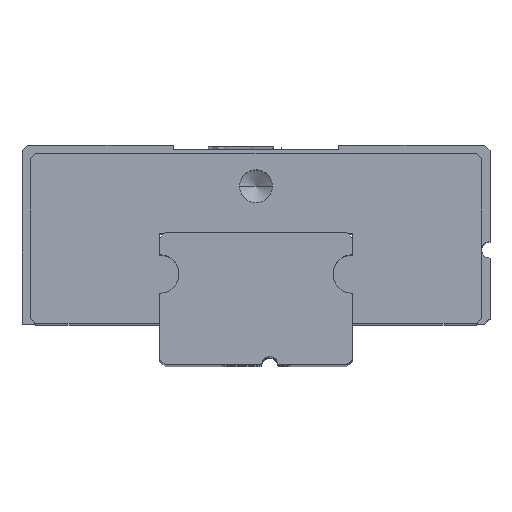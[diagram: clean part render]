
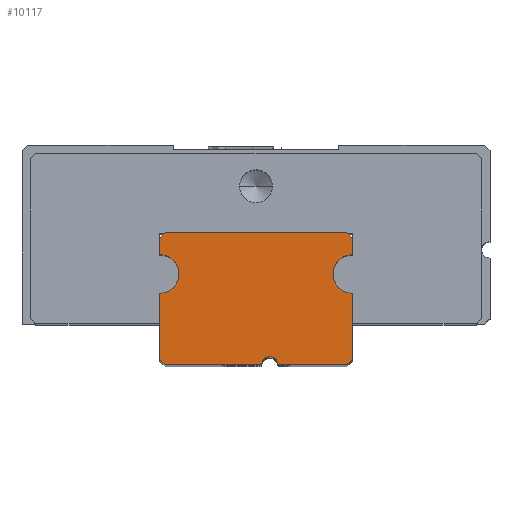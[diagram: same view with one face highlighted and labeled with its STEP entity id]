
A CAD part, top view. The second image highlights one B-rep face of the part: STEP entity #10117.
In plain terms, the highlighted planar face has unit normal (0, 0, 1).
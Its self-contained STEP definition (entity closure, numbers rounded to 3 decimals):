
#112 = ORIENTED_EDGE ( 'NONE', *, *, #9331, .F. ) ;
#119 = DIRECTION ( 'NONE',  ( 0.707, -0.707, 0. ) ) ;
#146 = VECTOR ( 'NONE', #6218, 1000. ) ;
#218 = VERTEX_POINT ( 'NONE', #10886 ) ;
#302 = ORIENTED_EDGE ( 'NONE', *, *, #1816, .F. ) ;
#379 = CARTESIAN_POINT ( 'NONE',  ( 3.5, 3.3, 20. ) ) ;
#437 = VERTEX_POINT ( 'NONE', #4800 ) ;
#441 = CARTESIAN_POINT ( 'NONE',  ( 0.5, 0., 20. ) ) ;
#511 = VERTEX_POINT ( 'NONE', #5571 ) ;
#550 = VERTEX_POINT ( 'NONE', #4675 ) ;
#697 = CARTESIAN_POINT ( 'NONE',  ( -3.3, 4.8, 20. ) ) ;
#791 = CARTESIAN_POINT ( 'NONE',  ( 3.5, 4., 20. ) ) ;
#877 = EDGE_CURVE ( 'NONE', #511, #218, #5323, .T. ) ;
#1010 = DIRECTION ( 'NONE',  ( 0., 0., -1. ) ) ;
#1089 = VERTEX_POINT ( 'NONE', #697 ) ;
#1167 = FACE_OUTER_BOUND ( 'NONE', #7810, .T. ) ;
#1223 = ORIENTED_EDGE ( 'NONE', *, *, #7521, .T. ) ;
#1255 = EDGE_CURVE ( 'NONE', #437, #550, #5084, .T. ) ;
#1294 = DIRECTION ( 'NONE',  ( -1., 0., 0. ) ) ;
#1300 = AXIS2_PLACEMENT_3D ( 'NONE', #441, #3884, #7344 ) ;
#1371 = DIRECTION ( 'NONE',  ( -1., 0., 0. ) ) ;
#1382 = CIRCLE ( 'NONE', #11021, 0.7 ) ;
#1613 = CARTESIAN_POINT ( 'NONE',  ( 3.5, 2.6, 20. ) ) ;
#1816 = EDGE_CURVE ( 'NONE', #3826, #4914, #7025, .T. ) ;
#1935 = VECTOR ( 'NONE', #3348, 1000. ) ;
#2012 = ORIENTED_EDGE ( 'NONE', *, *, #2591, .T. ) ;
#2075 = VECTOR ( 'NONE', #5397, 1000. ) ;
#2343 = CARTESIAN_POINT ( 'NONE',  ( 3.5, 3.3, 20. ) ) ;
#2591 = EDGE_CURVE ( 'NONE', #511, #7145, #5771, .T. ) ;
#2638 = AXIS2_PLACEMENT_3D ( 'NONE', #379, #9049, #4550 ) ;
#2689 = CARTESIAN_POINT ( 'NONE',  ( 3.5, 0.2, 20. ) ) ;
#2781 = LINE ( 'NONE', #8072, #9879 ) ;
#2839 = VECTOR ( 'NONE', #10519, 1000. ) ;
#2981 = DIRECTION ( 'NONE',  ( 0.707, 0.707, 0. ) ) ;
#3140 = CARTESIAN_POINT ( 'NONE',  ( -3.5, 4., 20. ) ) ;
#3250 = CARTESIAN_POINT ( 'NONE',  ( 3.3, 4.8, 20. ) ) ;
#3270 = CARTESIAN_POINT ( 'NONE',  ( -3.5, 0.2, 20. ) ) ;
#3348 = DIRECTION ( 'NONE',  ( 0., 1., 0. ) ) ;
#3445 = ORIENTED_EDGE ( 'NONE', *, *, #8123, .T. ) ;
#3580 = VECTOR ( 'NONE', #119, 1000. ) ;
#3642 = LINE ( 'NONE', #8133, #2075 ) ;
#3720 = EDGE_CURVE ( 'NONE', #6363, #8143, #10494, .T. ) ;
#3826 = VERTEX_POINT ( 'NONE', #3270 ) ;
#3884 = DIRECTION ( 'NONE',  ( 0., 0., -1. ) ) ;
#4062 = CARTESIAN_POINT ( 'NONE',  ( 0.8, 0., 20. ) ) ;
#4086 = VECTOR ( 'NONE', #10416, 1000. ) ;
#4266 = CIRCLE ( 'NONE', #5700, 0.7 ) ;
#4550 = DIRECTION ( 'NONE',  ( -1., 0., 0. ) ) ;
#4560 = LINE ( 'NONE', #6254, #3580 ) ;
#4593 = EDGE_CURVE ( 'NONE', #6363, #7145, #10999, .T. ) ;
#4623 = VERTEX_POINT ( 'NONE', #5613 ) ;
#4675 = CARTESIAN_POINT ( 'NONE',  ( 3.5, 4.6, 20. ) ) ;
#4722 = PLANE ( 'NONE',  #1300 ) ;
#4733 = ORIENTED_EDGE ( 'NONE', *, *, #6524, .F. ) ;
#4800 = CARTESIAN_POINT ( 'NONE',  ( 3.5, 4., 20. ) ) ;
#4814 = CIRCLE ( 'NONE', #2638, 0.7 ) ;
#4914 = VERTEX_POINT ( 'NONE', #9772 ) ;
#5084 = LINE ( 'NONE', #791, #1935 ) ;
#5153 = DIRECTION ( 'NONE',  ( -1., 0., 0. ) ) ;
#5164 = CARTESIAN_POINT ( 'NONE',  ( 0.5, 0., 20. ) ) ;
#5323 = LINE ( 'NONE', #5164, #146 ) ;
#5397 = DIRECTION ( 'NONE',  ( 0., 1., 0. ) ) ;
#5449 = CARTESIAN_POINT ( 'NONE',  ( 3.5, 0.2, 20. ) ) ;
#5571 = CARTESIAN_POINT ( 'NONE',  ( 0.2, 0., 20. ) ) ;
#5595 = CARTESIAN_POINT ( 'NONE',  ( -3.5, 3.3, 20. ) ) ;
#5604 = ORIENTED_EDGE ( 'NONE', *, *, #877, .F. ) ;
#5613 = CARTESIAN_POINT ( 'NONE',  ( 2.8, 3.3, 20. ) ) ;
#5700 = AXIS2_PLACEMENT_3D ( 'NONE', #5595, #10064, #1294 ) ;
#5771 = CIRCLE ( 'NONE', #8322, 0.3 ) ;
#5953 = LINE ( 'NONE', #9429, #7666 ) ;
#5971 = LINE ( 'NONE', #6014, #4086 ) ;
#6014 = CARTESIAN_POINT ( 'NONE',  ( -3.5, 4.6, 20. ) ) ;
#6218 = DIRECTION ( 'NONE',  ( -1., 0., 0. ) ) ;
#6254 = CARTESIAN_POINT ( 'NONE',  ( -3.3, 0., 20. ) ) ;
#6255 = CARTESIAN_POINT ( 'NONE',  ( 0.5, 0., 20. ) ) ;
#6346 = ORIENTED_EDGE ( 'NONE', *, *, #1255, .T. ) ;
#6363 = VERTEX_POINT ( 'NONE', #8447 ) ;
#6524 = EDGE_CURVE ( 'NONE', #10398, #550, #7443, .T. ) ;
#6890 = EDGE_CURVE ( 'NONE', #4914, #7478, #4266, .T. ) ;
#6989 = ORIENTED_EDGE ( 'NONE', *, *, #6890, .F. ) ;
#7025 = LINE ( 'NONE', #8806, #2839 ) ;
#7145 = VERTEX_POINT ( 'NONE', #4062 ) ;
#7325 = CARTESIAN_POINT ( 'NONE',  ( 0.5, 0., 20. ) ) ;
#7344 = DIRECTION ( 'NONE',  ( 0., -1., 0. ) ) ;
#7437 = EDGE_CURVE ( 'NONE', #7478, #9904, #3642, .T. ) ;
#7443 = LINE ( 'NONE', #3250, #7868 ) ;
#7478 = VERTEX_POINT ( 'NONE', #3140 ) ;
#7521 = EDGE_CURVE ( 'NONE', #1089, #9904, #5971, .T. ) ;
#7666 = VECTOR ( 'NONE', #11215, 1000. ) ;
#7674 = ORIENTED_EDGE ( 'NONE', *, *, #10733, .T. ) ;
#7675 = ORIENTED_EDGE ( 'NONE', *, *, #3720, .T. ) ;
#7706 = ORIENTED_EDGE ( 'NONE', *, *, #8236, .T. ) ;
#7810 = EDGE_LOOP ( 'NONE', ( #112, #3445, #7706, #6346, #4733, #8568, #1223, #9544, #6989, #302, #7674, #5604, #2012, #10334, #7675 ) ) ;
#7868 = VECTOR ( 'NONE', #10995, 1000. ) ;
#8008 = DIRECTION ( 'NONE',  ( 0., -1., 0. ) ) ;
#8072 = CARTESIAN_POINT ( 'NONE',  ( 3.5, 0., 20. ) ) ;
#8123 = EDGE_CURVE ( 'NONE', #10962, #4623, #4814, .T. ) ;
#8133 = CARTESIAN_POINT ( 'NONE',  ( -3.5, 0., 20. ) ) ;
#8143 = VERTEX_POINT ( 'NONE', #5449 ) ;
#8236 = EDGE_CURVE ( 'NONE', #4623, #437, #1382, .T. ) ;
#8322 = AXIS2_PLACEMENT_3D ( 'NONE', #6255, #1010, #5153 ) ;
#8447 = CARTESIAN_POINT ( 'NONE',  ( 3.3, 0., 20. ) ) ;
#8568 = ORIENTED_EDGE ( 'NONE', *, *, #9018, .T. ) ;
#8806 = CARTESIAN_POINT ( 'NONE',  ( -3.5, 0., 20. ) ) ;
#9018 = EDGE_CURVE ( 'NONE', #10398, #1089, #5953, .T. ) ;
#9049 = DIRECTION ( 'NONE',  ( 0., 0., -1. ) ) ;
#9167 = DIRECTION ( 'NONE',  ( -1., 0., 0. ) ) ;
#9331 = EDGE_CURVE ( 'NONE', #10962, #8143, #2781, .T. ) ;
#9429 = CARTESIAN_POINT ( 'NONE',  ( 3.5, 4.8, 20. ) ) ;
#9544 = ORIENTED_EDGE ( 'NONE', *, *, #7437, .F. ) ;
#9772 = CARTESIAN_POINT ( 'NONE',  ( -3.5, 2.6, 20. ) ) ;
#9879 = VECTOR ( 'NONE', #8008, 1000. ) ;
#9904 = VERTEX_POINT ( 'NONE', #9946 ) ;
#9946 = CARTESIAN_POINT ( 'NONE',  ( -3.5, 4.6, 20. ) ) ;
#10064 = DIRECTION ( 'NONE',  ( 0., 0., 1. ) ) ;
#10087 = CARTESIAN_POINT ( 'NONE',  ( 3.3, 4.8, 20. ) ) ;
#10117 = ADVANCED_FACE ( 'NONE', ( #1167 ), #4722, .F. ) ;
#10334 = ORIENTED_EDGE ( 'NONE', *, *, #4593, .F. ) ;
#10398 = VERTEX_POINT ( 'NONE', #10087 ) ;
#10416 = DIRECTION ( 'NONE',  ( -0.707, -0.707, 0. ) ) ;
#10494 = LINE ( 'NONE', #2689, #10985 ) ;
#10519 = DIRECTION ( 'NONE',  ( 0., 1., 0. ) ) ;
#10733 = EDGE_CURVE ( 'NONE', #3826, #218, #4560, .T. ) ;
#10886 = CARTESIAN_POINT ( 'NONE',  ( -3.3, 0., 20. ) ) ;
#10962 = VERTEX_POINT ( 'NONE', #1613 ) ;
#10968 = VECTOR ( 'NONE', #1371, 1000. ) ;
#10985 = VECTOR ( 'NONE', #2981, 1000. ) ;
#10995 = DIRECTION ( 'NONE',  ( 0.707, -0.707, 0. ) ) ;
#10999 = LINE ( 'NONE', #7325, #10968 ) ;
#11009 = DIRECTION ( 'NONE',  ( 0., 0., -1. ) ) ;
#11021 = AXIS2_PLACEMENT_3D ( 'NONE', #2343, #11009, #9167 ) ;
#11215 = DIRECTION ( 'NONE',  ( -1., 0., 0. ) ) ;
